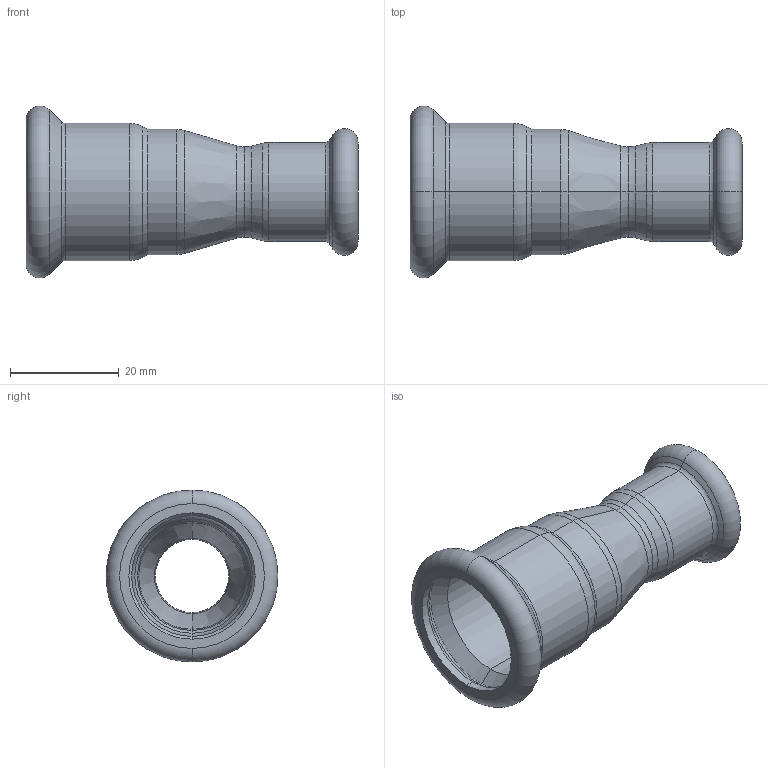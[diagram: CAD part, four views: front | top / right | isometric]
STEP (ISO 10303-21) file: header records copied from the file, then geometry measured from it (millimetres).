
FILE_DESCRIPTION (( 'STEP AP214' ), '1' );
FILE_NAME ('R221500.STEP', '2025-08-17T15:15:59', ( '' ), ( '' ), 'SwSTEP 2.0', 'SolidWorks 2020', '' );
FILE_SCHEMA (( 'AUTOMOTIVE_DESIGN' ));
Length unit declared in the file: millimetre
Products named in the file (1): R221500
Bounding box: 61 x 31.59 x 31.59 mm (x, y, z)
Volume: 7073.4 mm3; surface area: 9156.5 mm2
Topology: 1 solids, 1 shells, 76 faces, 152 edges, 80 vertices
Faces by surface type: torus 36, cone 20, cylinder 16, plane 4
Entity records: 2746 total; most frequent: DIRECTION 422, CARTESIAN_POINT 309, ORIENTED_EDGE 304, AXIS2_PLACEMENT_3D 193, EDGE_CURVE 152, CIRCLE 116, EDGE_LOOP 80, VERTEX_POINT 80
